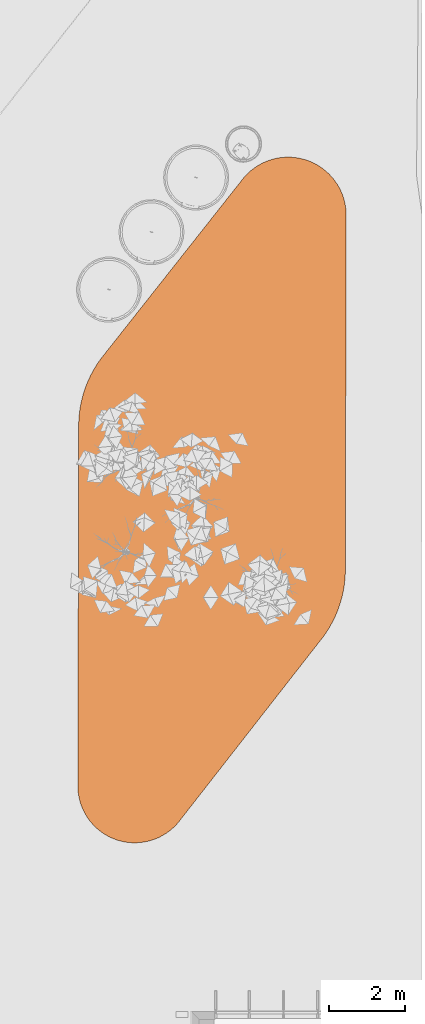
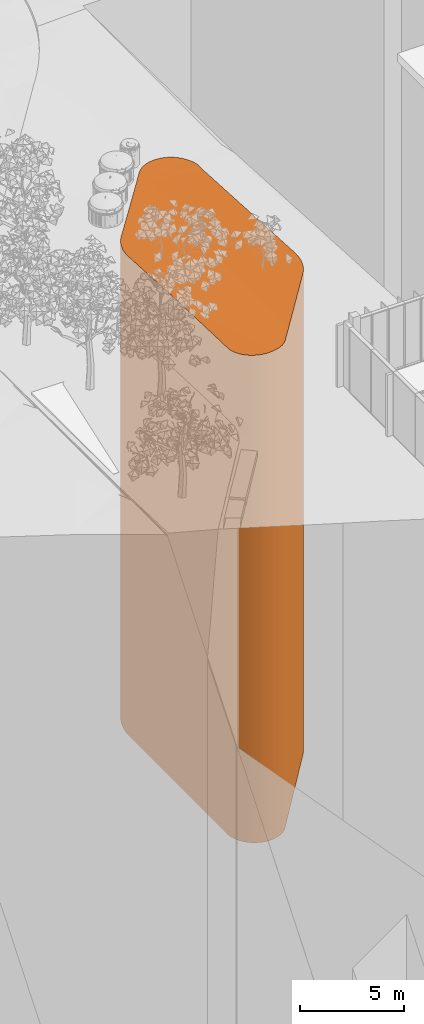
# One storey, part 56 of 69: 1 proxy.
"""IFC2X3 building model written with IfcOpenShell, lengths in millimetres."""

from ifc_helpers import new_model, entity, si_unit, converted_unit, derived_unit, money_unit, direction, frame, origin_with_axes, place, context, subcontext, project, spatial, faceted_brep, material, type_object, element, save


model = new_model("IFC2X3")

# Units and contexts
model_context = context("Model", 3, precision=0.01, world=origin_with_axes(), true_north=direction((0.0, 1.0)))
body_context = subcontext(model_context, "Body", "Model", "MODEL_VIEW")
ifc_project = project(units=[si_unit("LENGTHUNIT", "METRE", prefix="MILLI"), si_unit("AREAUNIT", "SQUARE_METRE"), si_unit("VOLUMEUNIT", "CUBIC_METRE"), converted_unit("PLANEANGLEUNIT", "DEGREE", entity("IfcPlaneAngleMeasure", 0.0174532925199), si_unit("PLANEANGLEUNIT", "RADIAN"), dimensions=[0, 0, 0, 0, 0, 0, 0]), si_unit("SOLIDANGLEUNIT", "STERADIAN"), money_unit("EUR"), converted_unit("TIMEUNIT", "Year", entity("IfcTimeMeasure", 31556926.0), si_unit("TIMEUNIT", "SECOND"), dimensions=[0, 0, 1, 0, 0, 0, 0]), si_unit("MASSUNIT", "GRAM", prefix="KILO"), si_unit("THERMODYNAMICTEMPERATUREUNIT", "DEGREE_CELSIUS"), si_unit("LUMINOUSINTENSITYUNIT", "LUMEN"), si_unit("ENERGYUNIT", "JOULE", prefix="MEGA"), derived_unit("THERMALCONDUCTANCEUNIT", [(si_unit("POWERUNIT", "WATT"), 1), (si_unit("LENGTHUNIT", "METRE"), -1), (si_unit("THERMODYNAMICTEMPERATUREUNIT", "KELVIN"), -1)]), derived_unit("SPECIFICHEATCAPACITYUNIT", [(si_unit("ENERGYUNIT", "JOULE"), 1), (si_unit("MASSUNIT", "GRAM", prefix="KILO"), -1), (si_unit("THERMODYNAMICTEMPERATUREUNIT", "KELVIN"), -1)]), derived_unit("MASSDENSITYUNIT", [(si_unit("MASSUNIT", "GRAM", prefix="KILO"), 1), (si_unit("VOLUMEUNIT", "CUBIC_METRE"), -1)])], contexts=[model_context])

# Site, building, storey
site_placement = place(None, origin_with_axes())
site = spatial("IfcSite", under=ifc_project, at=site_placement, Name="Puškini 31, Narva", CompositionType="ELEMENT")
building_placement = place(site_placement, origin_with_axes())
building = spatial("IfcBuilding", under=site, at=building_placement, Name="Narva Riigigümnaasium", CompositionType="ELEMENT")
storey_placement = place(building_placement, origin_with_axes())
storey = spatial("IfcBuildingStorey", under=building, at=storey_placement, Name="1.korrus 0.00", CompositionType="ELEMENT", Elevation=0.0)

# Proxy
ifc_material = material(Name="Roheala")
building_element_proxy_type = type_object("IfcBuildingElementProxyType", Name="Roheala 30000", PredefinedType="NOTDEFINED")
proxy_placement = place(storey_placement, frame((13599.1794496, 176893.938262, 1157.88154799), z_axis=(0.0, 0.0, 1.0), x_axis=(1.0, 0.0, 0.0)))
element("IfcBuildingElementProxy", 1, at=proxy_placement, inside=storey, type_object=building_element_proxy_type, material=ifc_material, Name="Madalhaljastus", context=body_context, shape_type="Brep", body=[
    faceted_brep([(6406.29996413, 3802.37051376, -2406.34946461), (6407.63093923, 3739.89841293, -2400.53856286), (6407.63093923, 3739.89841293, -30000.0), (6406.29996413, 3802.37051376, -30000.0), (6393.462759, 3926.68200024, -2418.11323553), (6370.53572842, 4049.5334991, -2429.9406879), (6337.67144798, 4170.10745391, -2441.75311199), (6295.08862405, 4287.60146487, -2453.47189806), (6275.22390597, 4330.9955115, -2457.88154799), (3670.58048341, 3776.57069386, -2457.88154799), (6407.6207271, 3735.23826577, -2400.10725304), (6390.39823946, -4124.24728379, -1957.88154799), (6387.08485307, -5636.3118012, -1868.76585136), (6387.08485307, -5636.3118012, -30000.0), (6406.77149324, 3347.69022781, -2398.25092963), (6405.27053028, 2662.72549249, -2357.88154799), (6401.55245757, 965.982298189, -2257.88154799), (6397.83438487, -730.76089566, -2157.88154799), (6394.11631217, -2427.50408999, -2057.88154799), (-154.131332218, -211.588203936, -30000.0), (-54.0937841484, -68.5098239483, -30000.0), (0.0, 0.0, -30000.0), (3689.54741093, 4672.8149583, -30000.0), (3718.61943885, 4709.46701592, -30000.0), (3804.16121027, 4800.57543951, -30000.0), (3896.84453083, 4884.40825883, -30000.0), (3996.05260833, 4960.4075803, -30000.0), (4101.12522938, 5028.06764098, -30000.0), (4211.36315302, 5086.93817433, -30000.0), (4326.03276406, 5136.62740666, -30000.0), (4444.37095516, 5176.80466433, -30000.0), (4565.59020517, 5207.20257432, -30000.0), (4688.88382, 5227.61884354, -30000.0), (4813.43130097, 5237.91760511, -30000.0), (4938.40380515, 5238.03032245, -30000.0), (5062.96966114, 5227.95624546, -30000.0), (5186.29990372, 5207.76241545, -30000.0), (5307.57379047, 5177.58321903, -30000.0), (5425.9842637, 5137.61949378, -30000.0), (5540.74332123, 5088.13719169, -30000.0), (5651.08726047, 5029.46560931, -30000.0), (5756.28176072, 4961.99519636, -30000.0), (5855.62676992, 4886.17495729, -30000.0), (5948.46116343, 4802.50946329, -30000.0), (6034.16714368, 4711.55549441, -30000.0), (6112.17435152, 4613.91833431, -30000.0), (6181.96366184, 4510.24774219, -30000.0), (6243.0706383, 4401.23362873, -30000.0), (6295.08862405, 4287.60146487, -30000.0), (6337.67144798, 4170.10745391, -30000.0), (6370.53572842, 4049.5334991, -30000.0), (6393.462759, 3926.68200024, -30000.0), (6387.67800928, -5691.95821257, -30000.0), (6379.0388363, -5865.08042931, -30000.0), (6360.4400982, -6037.41737885, -30000.0), (6331.94357812, -6208.39657519, -30000.0), (6293.64393864, -6377.45004263, -30000.0), (6245.6684073, -6544.01620255, -30000.0), (6188.17635399, -6707.54173891, -30000.0), (6121.35876154, -6867.48343634, -30000.0), (6045.43759127, -7023.3099846, -30000.0), (5960.66504566, -7174.50374356, -30000.0), (5867.32273059, -7320.56246276, -30000.0), (5765.72071985, -7461.00094983, -30000.0), (5710.95862247, -7528.17681603, -30000.0), (2016.15626106, -12261.3836027, -30000.0), (1940.79911229, -12352.8422911, -30000.0), (1854.74527746, -12439.8255176, -30000.0), (1761.88783919, -12519.5051282, -30000.0), (1662.84474841, -12591.3508681, -30000.0), (1558.27512056, -12654.884616, -30000.0), (1448.87484925, -12709.6835651, -30000.0), (1335.37197524, -12755.3830374, -30000.0), (1218.52184142, -12791.6789106, -30000.0), (1099.10206617, -12818.3296416, -30000.0), (977.907368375, -12835.1578742, -30000.0), (855.744278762, -12842.0516192, -30000.0), (733.425772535, -12838.965, -30000.0), (611.765859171, -12825.9185574, -30000.0), (491.574165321, -12802.9991133, -30000.0), (373.650546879, -12770.359193, -30000.0), (258.779766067, -12728.2160097, -30000.0), (147.726268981, -12676.8500193, -30000.0), (41.2290983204, -12616.6030541, -30000.0), (-60.0030248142, -12547.8760475, -30000.0), (-155.296417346, -12471.1263666, -30000.0), (-244.016917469, -12386.8647677, -30000.0), (-325.574104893, -12295.651998, -30000.0), (-399.425229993, -12198.0950633, -30000.0), (-465.078825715, -12094.8431889, -30000.0), (-522.097978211, -11986.5834992, -30000.0), (-570.10323443, -11874.0364443, -30000.0), (-608.775127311, -11757.9510064, -30000.0), (-637.856301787, -11639.099715, -30000.0), (-657.153227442, -11518.2735057, -30000.0), (-666.537486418, -11396.2764571, -30000.0), (-666.242057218, -11335.0984483, -30000.0), (-645.462862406, -1852.50889581, -30000.0), (-641.781740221, -1686.64125713, -30000.0), (-626.685872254, -1512.7129713, -30000.0), (-601.502513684, -1339.95669125, -30000.0), (-566.316877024, -1168.95696957, -30000.0), (-521.248019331, -1000.29241517, -30000.0), (-466.448439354, -834.533735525, -30000.0), (-402.103561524, -672.241805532, -30000.0), (-328.431108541, -513.965769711, -30000.0), (-245.680364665, -360.241184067, -30000.0), (6243.0706383, 4401.23362873, -2459.10177069), (6181.96366184, 4510.24774219, -2461.03338521), (6112.17435152, 4613.91833431, -2462.9096671), (6034.16714368, 4711.55549441, -2464.71813002), (5948.46116343, 4802.50946329, -2466.44673894), (5855.62676992, 4886.17495729, -2468.08399025), (5756.28176072, 4961.99519636, -2469.61898833), (5651.08726047, 5029.46560931, -2471.041518), (5540.74332123, 5088.13719169, -2472.34211257), (5425.9842637, 5137.61949378, -2473.5121168), (5307.57379047, 5177.58321903, -2474.54374451), (5186.29990372, 5207.76241545, -2475.43013037), (5062.96966114, 5227.95624546, -2476.16537564), (4938.40380515, 5238.03032245, -2476.74458738), (4813.43130097, 5237.91760511, -2477.16391104), (4688.88382, 5227.61884354, -2477.42055608), (4565.59020517, 5207.20257432, -2477.51281457), (4444.37095516, 5176.80466433, -2477.44007255), (4326.03276406, 5136.62740666, -2477.20281411), (4211.36315302, 5086.93817433, -2476.80261815), (4149.45334548, 5053.87638154, -2476.48785711), (5418.44051185, -4331.13836171, -1957.88154799), (5768.01251749, -5952.68017338, -1857.88154799), (6381.18060283, -5822.16111623, -1857.88154799), (6387.67800928, -5691.95821257, -1865.47727489), (4020.15248917, 2155.02888311, -2357.88154799), (4369.72449481, 533.487071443, -2257.88154799), (4719.29650045, -1088.05473929, -2157.88154799), (5068.86850609, -2709.59655096, -2057.88154799), (-154.131332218, -211.588203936, -2063.32839341), (-54.0937841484, -68.5098239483, -2075.9249368), (0.0, 0.0, -2082.2161028), (3452.92469355, 4373.1320841, -2457.88154799), (3689.54741093, 4672.8149583, -2469.45286764), (650.599627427, 823.984988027, -2157.88154799), (1510.43680539, 1912.96951026, -2257.88154799), (2370.27398378, 3001.95403303, -2357.88154799), (3068.44695747, 3886.1907021, -2439.07982502), (3718.61943885, 4709.46701592, -2470.87250106), (3736.08886796, 4728.07327251, -2471.68385068), (3804.16121027, 4800.57543951, -2472.74813399), (3896.84453083, 4884.40825883, -2473.98153058), (3996.05260833, 4960.4075803, -2475.10270499), (4101.12522938, 5028.06764098, -2476.104196), (6379.0388363, -5865.08042931, -1855.37773761), (6360.4400982, -6037.41737885, -1845.449506), (6331.94357812, -6208.39657519, -1835.72556067), (6293.64393864, -6377.45004263, -1826.23820357), (6245.6684073, -6544.01620255, -1817.01895077), (6188.17635399, -6707.54173891, -1808.09842768), (6121.35876154, -6867.48343634, -1799.5062674), (6045.43759127, -7023.3099846, -1791.27101221), (6011.76553713, -7083.36485732, -1788.15256065), (5960.66504566, -7174.50374356, -1782.54414108), (5867.32273059, -7320.56246276, -1773.5580724), (5765.72071985, -7461.00094983, -1764.91980602), (5710.95862247, -7528.17681603, -1760.78892172), (2112.47699923, -12137.9924367, -1457.88154799), (2016.15626106, -12261.3836027, -1446.59706597), (5674.05533145, -7575.45157945, -1757.88154799), (4404.75545838, -9201.48138724, -1657.88154799), (3135.45558603, -10827.5111941, -1557.88154799), (2618.21652073, -11490.1175299, -1517.13159786), (1940.79911229, -12352.8422911, -1438.0667702), (1854.74527746, -12439.8255176, -1429.35094812), (1761.88783919, -12519.5051282, -1420.77888983), (1662.84474841, -12591.3508681, -1412.40764096), (1558.27512056, -12654.884616, -1404.2929108), (1448.87484925, -12709.6835651, -1396.48870152), (1335.37197524, -12755.3830374, -1389.04694887), (1218.52184142, -12791.6789106, -1382.01717647), (1099.10206617, -12818.3296416, -1375.4461663), (1032.69712929, -12827.5501582, -1372.12110649), (977.907368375, -12835.1578742, -1374.29010886), (855.744278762, -12842.0516192, -1379.48817363), (733.425772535, -12838.965, -1385.0518877), (611.765859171, -12825.9185574, -1390.94422546), (491.574165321, -12802.9991133, -1397.12597437), (373.650546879, -12770.359193, -1403.55599593), (258.779766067, -12728.2160097, -1410.19149939), (147.726268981, -12676.8500193, -1416.98832658), (41.2290983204, -12616.6030541, -1423.90124574), (-60.0030248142, -12547.8760475, -1430.88425251), (-155.296417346, -12471.1263666, -1437.89087616), (-244.016917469, -12386.8647677, -1444.87448875), (-325.574104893, -12295.651998, -1451.7886155), (-391.759500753, -12208.2214499, -1457.88154799), (-399.425229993, -12198.0950633, -1458.58724402), (-465.078825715, -12094.8431889, -1465.22513057), (-522.097978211, -11986.5834992, -1471.65810112), (-570.10323443, -11874.0364443, -1477.8433453), (-608.775127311, -11757.9510064, -1483.73970134), (-637.856301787, -11639.099715, -1489.30792995), (-657.153227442, -11518.2735057, -1494.51097549), (-666.537486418, -11396.2764571, -1499.31421256), (-666.242057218, -11335.0984483, -1501.49994448), (-648.758838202, -3356.62808457, -1857.88154799), (-645.462862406, -1852.50889581, -1946.35908648), (-662.795300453, -9762.1703349, -1557.88154799), (-656.682035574, -6972.38073067, -1657.88154799), (-655.471765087, -6420.07356087, -1677.67899684), (-652.484050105, -5056.6292536, -1757.88154799), (-641.781740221, -1686.64125713, -1956.2550673), (-639.518334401, -1660.56324059, -1957.88154799), (-626.685872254, -1512.7129713, -1967.10293984), (-601.502513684, -1339.95669125, -1978.30482015), (-566.316877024, -1168.95696957, -1989.82280464), (-521.248019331, -1000.29241517, -2001.61792008), (-466.448439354, -834.533735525, -2013.65025555), (-402.103561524, -672.241805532, -2025.87909742), (-328.431108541, -513.965769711, -2038.26306716), (-245.680364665, -360.241184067, -2050.76026135), (-193.80734982, -276.012240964, -2057.88154799), (2999.39429038, -5960.35560961, -1857.88154799), (3111.25865599, -4337.53455858, -1957.88154799), (3558.71611793, 2153.74964375, -2357.88154799), (3446.85175244, 530.928592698, -2257.88154799), (3334.98738696, -1091.89245741, -2157.88154799), (3223.12302135, -2714.71350845, -2057.88154799), (2887.5299249, -7583.17665972, -1757.88154799), (558.881481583, -11029.17401, -1457.88154799), (2775.66555941, -9205.99771078, -1657.88154799), (2663.80119393, -10828.8187609, -1557.88154799), (6.39406508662, -8932.19769234, -1557.88154799), (-546.09335141, -6835.22137466, -1657.88154799)], [[[0, 1, 2, 3]], [[1, 0, 4, 5, 6, 7, 8, 9, 10]], [[11, 12, 13, 2, 1, 10, 14, 15, 16, 17, 18]], [[19, 20, 21, 22, 23, 24, 25, 26, 27, 28, 29, 30, 31, 32, 33, 34, 35, 36, 37, 38, 39, 40, 41, 42, 43, 44, 45, 46, 47, 48, 49, 50, 51, 3, 2, 13, 52, 53, 54, 55, 56, 57, 58, 59, 60, 61, 62, 63, 64, 65, 66, 67, 68, 69, 70, 71, 72, 73, 74, 75, 76, 77, 78, 79, 80, 81, 82, 83, 84, 85, 86, 87, 88, 89, 90, 91, 92, 93, 94, 95, 96, 97, 98, 99, 100, 101, 102, 103, 104, 105, 106]], [[4, 0, 3, 51]], [[5, 4, 51, 50]], [[6, 5, 50, 49]], [[7, 6, 49, 48]], [[8, 7, 48, 47, 107]], [[8, 107, 108, 109, 110, 111, 112, 113, 114, 115, 116, 117, 118, 119, 120, 121, 122, 123, 124, 125, 126, 127, 9]], [[14, 10, 9]], [[12, 11, 128, 129, 130, 131]], [[12, 131, 52, 13]], [[15, 14, 9, 132]], [[16, 15, 132, 133]], [[17, 16, 133, 134]], [[18, 17, 134, 135]], [[11, 18, 135, 128]], [[136, 137, 20, 19]], [[137, 138, 21, 20]], [[139, 140, 22, 21, 138, 141, 142, 143, 144]], [[140, 145, 23, 22]], [[146, 147, 24, 23, 145]], [[147, 148, 25, 24]], [[148, 149, 26, 25]], [[149, 150, 27, 26]], [[127, 126, 28, 27, 150]], [[126, 125, 29, 28]], [[125, 124, 30, 29]], [[124, 123, 31, 30]], [[123, 122, 32, 31]], [[122, 121, 33, 32]], [[121, 120, 34, 33]], [[120, 119, 35, 34]], [[119, 118, 36, 35]], [[118, 117, 37, 36]], [[117, 116, 38, 37]], [[116, 115, 39, 38]], [[115, 114, 40, 39]], [[114, 113, 41, 40]], [[113, 112, 42, 41]], [[112, 111, 43, 42]], [[111, 110, 44, 43]], [[110, 109, 45, 44]], [[109, 108, 46, 45]], [[108, 107, 47, 46]], [[130, 151, 53, 52, 131]], [[151, 152, 54, 53]], [[152, 153, 55, 54]], [[153, 154, 56, 55]], [[154, 155, 57, 56]], [[155, 156, 58, 57]], [[156, 157, 59, 58]], [[157, 158, 60, 59]], [[159, 160, 61, 60, 158]], [[160, 161, 62, 61]], [[161, 162, 63, 62]], [[162, 163, 64, 63]], [[164, 165, 65, 64, 163, 166, 167, 168, 169]], [[165, 170, 66, 65]], [[170, 171, 67, 66]], [[171, 172, 68, 67]], [[172, 173, 69, 68]], [[173, 174, 70, 69]], [[174, 175, 71, 70]], [[175, 176, 72, 71]], [[176, 177, 73, 72]], [[177, 178, 74, 73]], [[179, 180, 75, 74, 178]], [[180, 181, 76, 75]], [[181, 182, 77, 76]], [[182, 183, 78, 77]], [[183, 184, 79, 78]], [[184, 185, 80, 79]], [[185, 186, 81, 80]], [[186, 187, 82, 81]], [[187, 188, 83, 82]], [[188, 189, 84, 83]], [[189, 190, 85, 84]], [[190, 191, 86, 85]], [[191, 192, 87, 86]], [[193, 194, 88, 87, 192]], [[194, 195, 89, 88]], [[195, 196, 90, 89]], [[196, 197, 91, 90]], [[197, 198, 92, 91]], [[198, 199, 93, 92]], [[199, 200, 94, 93]], [[200, 201, 95, 94]], [[201, 202, 96, 95]], [[203, 204, 97, 96, 202, 205, 206, 207, 208]], [[204, 209, 98, 97]], [[210, 211, 99, 98, 209]], [[211, 212, 100, 99]], [[212, 213, 101, 100]], [[213, 214, 102, 101]], [[214, 215, 103, 102]], [[215, 216, 104, 103]], [[216, 217, 105, 104]], [[217, 218, 106, 105]], [[219, 136, 19, 106, 218]], [[127, 150, 149, 148, 147, 146, 9]], [[220, 129, 128, 221]], [[151, 130, 129, 159, 158, 157, 156, 155, 154, 153, 152]], [[9, 222, 132]], [[222, 223, 133, 132]], [[223, 224, 134, 133]], [[224, 225, 135, 134]], [[221, 128, 135, 225]], [[141, 138, 137, 136, 219, 225, 224]], [[146, 145, 140, 139, 9]], [[142, 141, 224, 223]], [[143, 142, 223, 222]], [[144, 143, 222, 9]], [[139, 144, 9]], [[160, 159, 129, 220, 226, 166, 163, 162, 161]], [[165, 164, 227, 179, 178, 177, 176, 175, 174, 173, 172, 171, 170]], [[167, 166, 226, 228]], [[168, 167, 228, 229]], [[169, 168, 229]], [[164, 169, 229, 230, 227]], [[180, 179, 227, 193, 192, 191, 190, 189, 188, 187, 186, 185, 184, 183, 182, 181]], [[194, 193, 227, 230, 205, 202, 201, 200, 199, 198, 197, 196, 195]], [[210, 209, 204, 203, 220, 221]], [[206, 205, 230, 231]], [[207, 206, 231]], [[208, 207, 231, 228, 226]], [[203, 208, 226, 220]], [[219, 218, 217, 216, 215, 214, 213, 212, 211, 210, 221, 225]], [[229, 228, 231, 230]]]),
])

save(model, "model.ifc")
